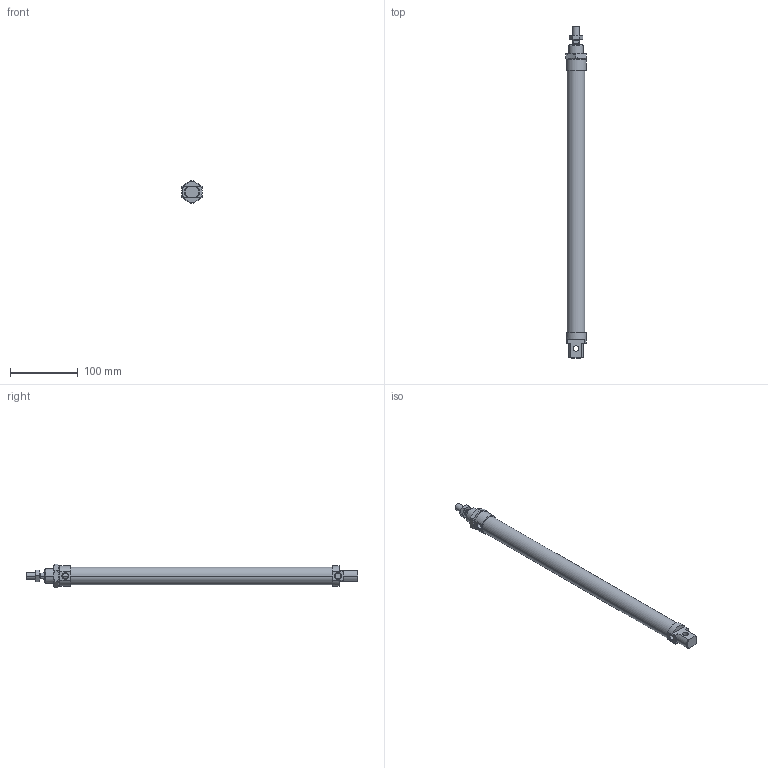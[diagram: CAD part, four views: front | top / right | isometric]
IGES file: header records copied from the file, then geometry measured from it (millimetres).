
Global section: file name: No Iges File Name specified; native system: AutoDesk Inventor R6.0; preprocessor: AutoDesk Inventor Iges Exporter R6.0; author: No Author specified; organization: No Organization specified; date: 20030407.191647; units: millimetre
Bounding box: 30 x 490 x 34.64 mm (x, y, z)
Volume: 253128.3 mm3; surface area: 68555.4 mm2
Topology: 4 solids, 4 shells, 124 faces, 281 edges, 170 vertices
Faces by surface type: plane 41, cone 38, bspline 21, cylinder 18, revolution 6
